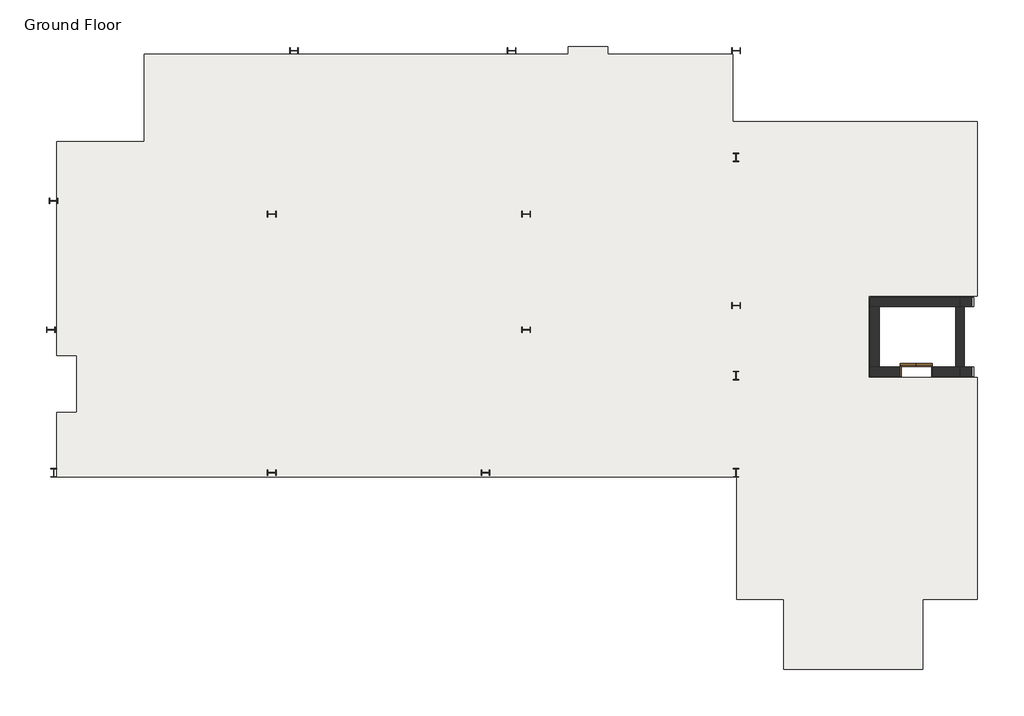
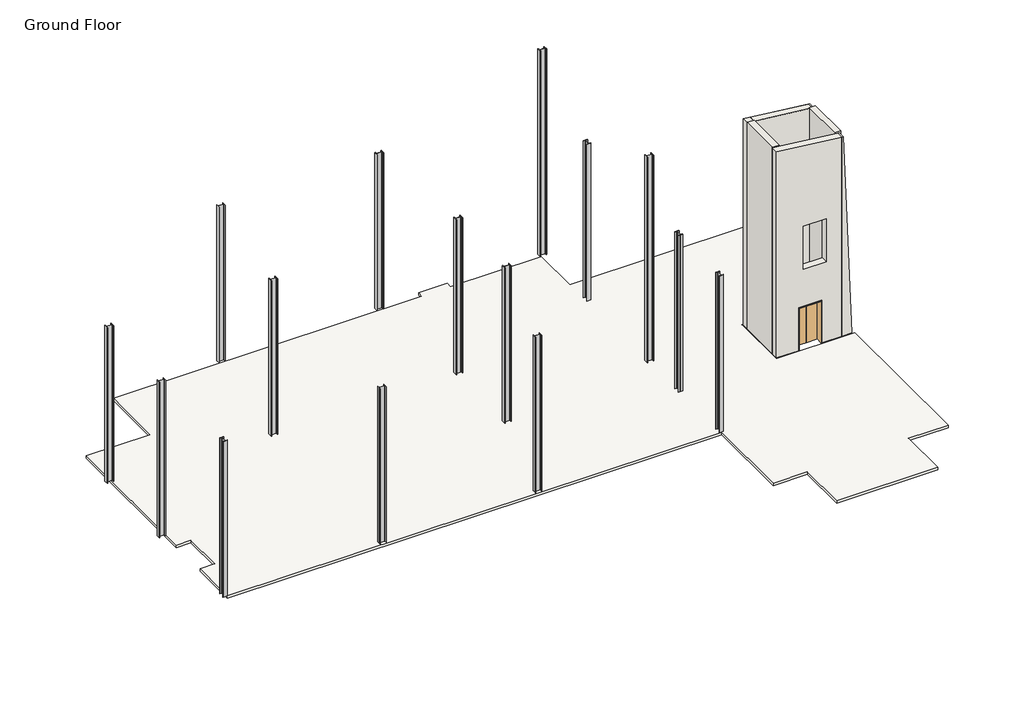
# One storey: 15 columns, 7 walls, 1 door, 1 slab.
"""IFC4 building model written with IfcOpenShell, lengths in millimetres."""

from ifc_helpers import new_model, si_unit, point, frame, frame_2d, origin, place, context, project, spatial, polyline, circle_curve, trimmed, segment, composite_curve, outline, extrude, faceted_brep, transform, mapped, element, save
from components import w_wide_flange_column_w12x40_bfea6e2c, door_aaeb5b8c

model = new_model("IFC4")

# Units and contexts
model_context = context("Model", 3, world=origin())
ifc_project = project(units=[si_unit("LENGTHUNIT", "METRE", prefix="MILLI")], contexts=[model_context])

# Site, building, storey
site = spatial("IfcSite", under=ifc_project)
building = spatial("IfcBuilding", under=site)
storey = spatial("IfcBuildingStorey", under=building, Name="Ground Floor", Elevation=30480.0)

# Columns
placement = place(None, origin())
element("IfcColumn", 1, ObjectType="W-Wide Flange-Column : W12X40", at=placement, inside=storey, context=model_context, shape_type="SweptSolid", body=[
    extrude(outline(composite_curve([segment(polyline([(13669.3791487, -6791.0746401), (13669.3791487, -6804.1715151), (13593.3279768, -6804.1715151)]), True, "CONTINUOUS"), segment(trimmed(circle_curve(frame_2d((13593.3279768, -6825.9996401)), 21.828125), [point((13593.3279768, -6804.1715151))], [point((13571.4998518, -6825.9996401))], True, "CARTESIAN"), True, "CONTINUOUS"), segment(polyline([(13571.4998518, -6825.9996401), (13571.4998518, -7059.4613589)]), True, "CONTINUOUS"), segment(trimmed(circle_curve(frame_2d((13593.3279768, -7059.4613589)), 21.828125), [point((13571.4998518, -7059.4613589))], [point((13593.3279768, -7081.2894839))], True, "CARTESIAN"), True, "CONTINUOUS"), segment(polyline([(13593.3279768, -7081.2894839), (13669.3791487, -7081.2894839), (13669.3791487, -7094.3863589), (13466.0799299, -7094.3863589), (13466.0799299, -7081.2894839), (13542.1311018, -7081.2894839)]), True, "CONTINUOUS"), segment(trimmed(circle_curve(frame_2d((13542.1311018, -7059.4613589)), 21.828125), [point((13542.1311018, -7081.2894839))], [point((13563.9592268, -7059.4613589))], True, "CARTESIAN"), True, "CONTINUOUS"), segment(polyline([(13563.9592268, -7059.4613589), (13563.9592268, -6825.9996401)]), True, "CONTINUOUS"), segment(trimmed(circle_curve(frame_2d((13542.1311018, -6825.9996401)), 21.828125), [point((13563.9592268, -6825.9996401))], [point((13542.1311018, -6804.1715151))], True, "CARTESIAN"), True, "CONTINUOUS"), segment(polyline([(13542.1311018, -6804.1715151), (13466.0799299, -6804.1715151), (13466.0799299, -6791.0746401), (13669.3791487, -6791.0746401)]), True, "CONTINUOUS")], self_intersect=False)), frame((0.0, 0.0, 30480.0), z_axis=(0.0, 0.0, 1.0), x_axis=(1.0, 0.0, 0.0)), (0.0, 0.0, 1.0), 7988.3),
])
element("IfcColumn", 2, ObjectType="W-Wide Flange-Column : W12X40", at=placement, inside=storey, context=model_context, shape_type="SweptSolid", body=[
    extrude(outline(composite_curve([segment(polyline([(-10575.3444063, -1833.0779639), (-10562.2475313, -1833.0779639), (-10562.2475313, -1909.1291357)]), True, "CONTINUOUS"), segment(trimmed(circle_curve(frame_2d((-10540.4194063, -1909.1291357)), 21.828125), [point((-10562.2475313, -1909.1291357))], [point((-10540.4194063, -1930.9572607))], True, "CARTESIAN"), True, "CONTINUOUS"), segment(polyline([(-10540.4194063, -1930.9572607), (-10306.9576875, -1930.9572607)]), True, "CONTINUOUS"), segment(trimmed(circle_curve(frame_2d((-10306.9576875, -1909.1291357)), 21.828125), [point((-10306.9576875, -1930.9572607))], [point((-10285.1295625, -1909.1291357))], True, "CARTESIAN"), True, "CONTINUOUS"), segment(polyline([(-10285.1295625, -1909.1291357), (-10285.1295625, -1833.0779639), (-10272.0326875, -1833.0779639), (-10272.0326875, -2036.3771826), (-10285.1295625, -2036.3771826), (-10285.1295625, -1960.3260107)]), True, "CONTINUOUS"), segment(trimmed(circle_curve(frame_2d((-10306.9576875, -1960.3260107)), 21.828125), [point((-10285.1295625, -1960.3260107))], [point((-10306.9576875, -1938.4978857))], True, "CARTESIAN"), True, "CONTINUOUS"), segment(polyline([(-10306.9576875, -1938.4978857), (-10540.4194063, -1938.4978857)]), True, "CONTINUOUS"), segment(trimmed(circle_curve(frame_2d((-10540.4194063, -1960.3260107)), 21.828125), [point((-10540.4194063, -1938.4978857))], [point((-10562.2475313, -1960.3260107))], True, "CARTESIAN"), True, "CONTINUOUS"), segment(polyline([(-10562.2475313, -1960.3260107), (-10562.2475313, -2036.3771826), (-10575.3444063, -2036.3771826), (-10575.3444063, -1833.0779639)]), True, "CONTINUOUS")], self_intersect=False)), frame((0.0, 0.0, 30480.0), z_axis=(0.0, 0.0, 1.0), x_axis=(1.0, 0.0, 0.0)), (0.0, 0.0, 1.0), 7924.8),
])
element("IfcColumn", 3, ObjectType="W-Wide Flange-Column : W12X40", at=placement, inside=storey, context=model_context, shape_type="SweptSolid", body=[
    extrude(outline(composite_curve([segment(polyline([(13416.0736799, 7944.8941099), (13429.1705549, 7944.8941099), (13429.1705549, 7868.842938)]), True, "CONTINUOUS"), segment(trimmed(circle_curve(frame_2d((13450.9986799, 7868.842938)), 21.828125), [point((13429.1705549, 7868.842938))], [point((13450.9986799, 7847.014813))], True, "CARTESIAN"), True, "CONTINUOUS"), segment(polyline([(13450.9986799, 7847.014813), (13684.4603987, 7847.014813)]), True, "CONTINUOUS"), segment(trimmed(circle_curve(frame_2d((13684.4603987, 7868.842938)), 21.828125), [point((13684.4603987, 7847.014813))], [point((13706.2885237, 7868.842938))], True, "CARTESIAN"), True, "CONTINUOUS"), segment(polyline([(13706.2885237, 7868.842938), (13706.2885237, 7944.8941099), (13719.3853987, 7944.8941099), (13719.3853987, 7741.5948911), (13706.2885237, 7741.5948911), (13706.2885237, 7817.646063)]), True, "CONTINUOUS"), segment(trimmed(circle_curve(frame_2d((13684.4603987, 7817.646063)), 21.828125), [point((13706.2885237, 7817.646063))], [point((13684.4603987, 7839.474188))], True, "CARTESIAN"), True, "CONTINUOUS"), segment(polyline([(13684.4603987, 7839.474188), (13450.9986799, 7839.474188)]), True, "CONTINUOUS"), segment(trimmed(circle_curve(frame_2d((13450.9986799, 7817.646063)), 21.828125), [point((13450.9986799, 7839.474188))], [point((13429.1705549, 7817.646063))], True, "CARTESIAN"), True, "CONTINUOUS"), segment(polyline([(13429.1705549, 7817.646063), (13429.1705549, 7741.5948911), (13416.0736799, 7741.5948911), (13416.0736799, 7944.8941099)]), True, "CONTINUOUS")], self_intersect=False)), frame((0.0, 0.0, 30480.0), z_axis=(0.0, 0.0, 1.0), x_axis=(1.0, 0.0, 0.0)), (0.0, 0.0, 1.0), 10466.7908493),
])
element("IfcColumn", 4, ObjectType="W-Wide Flange-Column : W12X40", at=placement, inside=storey, context=model_context, shape_type="SweptSolid", body=[
    extrude(outline(composite_curve([segment(polyline([(13466.0799299, 3954.6136411), (13466.0799299, 3967.7105161), (13542.1311018, 3967.7105161)]), True, "CONTINUOUS"), segment(trimmed(circle_curve(frame_2d((13542.1311018, 3989.5386411)), 21.828125), [point((13542.1311018, 3967.7105161))], [point((13563.9592268, 3989.5386411))], True, "CARTESIAN"), True, "CONTINUOUS"), segment(polyline([(13563.9592268, 3989.5386411), (13563.9592268, 4223.0003599)]), True, "CONTINUOUS"), segment(trimmed(circle_curve(frame_2d((13542.1311018, 4223.0003599)), 21.828125), [point((13563.9592268, 4223.0003599))], [point((13542.1311018, 4244.8284849))], True, "CARTESIAN"), True, "CONTINUOUS"), segment(polyline([(13542.1311018, 4244.8284849), (13466.0799299, 4244.8284849), (13466.0799299, 4257.9253599), (13669.3791487, 4257.9253599), (13669.3791487, 4244.8284849), (13593.3279768, 4244.8284849)]), True, "CONTINUOUS"), segment(trimmed(circle_curve(frame_2d((13593.3279768, 4223.0003599)), 21.828125), [point((13593.3279768, 4244.8284849))], [point((13571.4998518, 4223.0003599))], True, "CARTESIAN"), True, "CONTINUOUS"), segment(polyline([(13571.4998518, 4223.0003599), (13571.4998518, 3989.5386411)]), True, "CONTINUOUS"), segment(trimmed(circle_curve(frame_2d((13593.3279768, 3989.5386411)), 21.828125), [point((13571.4998518, 3989.5386411))], [point((13593.3279768, 3967.7105161))], True, "CARTESIAN"), True, "CONTINUOUS"), segment(polyline([(13593.3279768, 3967.7105161), (13669.3791487, 3967.7105161), (13669.3791487, 3954.6136411), (13466.0799299, 3954.6136411)]), True, "CONTINUOUS")], self_intersect=False)), frame((0.0, 0.0, 30480.0), z_axis=(0.0, 0.0, 1.0), x_axis=(1.0, 0.0, 0.0)), (0.0, 0.0, 1.0), 7988.3),
])
element("IfcColumn", 5, ObjectType="W-Wide Flange-Column : W12X40", at=placement, inside=storey, context=model_context, shape_type="SweptSolid", body=[
    extrude(outline(composite_curve([segment(polyline([(13719.3853987, -1186.5051089), (13706.2885237, -1186.5051089), (13706.2885237, -1110.453937)]), True, "CONTINUOUS"), segment(trimmed(circle_curve(frame_2d((13684.4603987, -1110.453937)), 21.828125), [point((13706.2885237, -1110.453937))], [point((13684.4603987, -1088.625812))], True, "CARTESIAN"), True, "CONTINUOUS"), segment(polyline([(13684.4603987, -1088.625812), (13450.9986799, -1088.625812)]), True, "CONTINUOUS"), segment(trimmed(circle_curve(frame_2d((13450.9986799, -1110.453937)), 21.828125), [point((13450.9986799, -1088.625812))], [point((13429.1705549, -1110.453937))], True, "CARTESIAN"), True, "CONTINUOUS"), segment(polyline([(13429.1705549, -1110.453937), (13429.1705549, -1186.5051089), (13416.0736799, -1186.5051089), (13416.0736799, -983.2058901), (13429.1705549, -983.2058901), (13429.1705549, -1059.257062)]), True, "CONTINUOUS"), segment(trimmed(circle_curve(frame_2d((13450.9986799, -1059.257062)), 21.828125), [point((13429.1705549, -1059.257062))], [point((13450.9986799, -1081.085187))], True, "CARTESIAN"), True, "CONTINUOUS"), segment(polyline([(13450.9986799, -1081.085187), (13684.4603987, -1081.085187)]), True, "CONTINUOUS"), segment(trimmed(circle_curve(frame_2d((13684.4603987, -1059.257062)), 21.828125), [point((13684.4603987, -1081.085187))], [point((13706.2885237, -1059.257062))], True, "CARTESIAN"), True, "CONTINUOUS"), segment(polyline([(13706.2885237, -1059.257062), (13706.2885237, -983.2058901), (13719.3853987, -983.2058901), (13719.3853987, -1186.5051089)]), True, "CONTINUOUS")], self_intersect=False)), frame((0.0, 0.0, 30480.0), z_axis=(0.0, 0.0, 1.0), x_axis=(1.0, 0.0, 0.0)), (0.0, 0.0, 1.0), 10466.8036839),
])
element("IfcColumn", 6, ObjectType="W-Wide Flange-Column : W12X40", at=placement, inside=storey, context=model_context, shape_type="SweptSolid", body=[
    extrude(outline(composite_curve([segment(polyline([(13669.3791487, -3387.4746401), (13669.3791487, -3400.5715151), (13593.3279768, -3400.5715151)]), True, "CONTINUOUS"), segment(trimmed(circle_curve(frame_2d((13593.3279768, -3422.3996401)), 21.828125), [point((13593.3279768, -3400.5715151))], [point((13571.4998518, -3422.3996401))], True, "CARTESIAN"), True, "CONTINUOUS"), segment(polyline([(13571.4998518, -3422.3996401), (13571.4998518, -3655.8613589)]), True, "CONTINUOUS"), segment(trimmed(circle_curve(frame_2d((13593.3279768, -3655.8613589)), 21.828125), [point((13571.4998518, -3655.8613589))], [point((13593.3279768, -3677.6894839))], True, "CARTESIAN"), True, "CONTINUOUS"), segment(polyline([(13593.3279768, -3677.6894839), (13669.3791487, -3677.6894839), (13669.3791487, -3690.7863589), (13466.0799299, -3690.7863589), (13466.0799299, -3677.6894839), (13542.1311018, -3677.6894839)]), True, "CONTINUOUS"), segment(trimmed(circle_curve(frame_2d((13542.1311018, -3655.8613589)), 21.828125), [point((13542.1311018, -3677.6894839))], [point((13563.9592268, -3655.8613589))], True, "CARTESIAN"), True, "CONTINUOUS"), segment(polyline([(13563.9592268, -3655.8613589), (13563.9592268, -3422.3996401)]), True, "CONTINUOUS"), segment(trimmed(circle_curve(frame_2d((13542.1311018, -3422.3996401)), 21.828125), [point((13563.9592268, -3422.3996401))], [point((13542.1311018, -3400.5715151))], True, "CARTESIAN"), True, "CONTINUOUS"), segment(polyline([(13542.1311018, -3400.5715151), (13466.0799299, -3400.5715151), (13466.0799299, -3387.4746401), (13669.3791487, -3387.4746401)]), True, "CONTINUOUS")], self_intersect=False)), frame((0.0, 0.0, 30480.0), z_axis=(0.0, 0.0, 1.0), x_axis=(1.0, 0.0, 0.0)), (0.0, 0.0, 1.0), 7988.3),
])
w_wide_flange_column_w12x40_shape = w_wide_flange_column_w12x40_bfea6e2c(model_context)
element("IfcColumn", 7, ObjectType="W-Wide Flange-Column : W12X40", at=placement, inside=storey, context=model_context, shape_type="MappedRepresentation", body=[
    mapped(w_wide_flange_column_w12x40_shape, transform((-10327.3204607, -6942.7304995, 0.0), x_axis=(1.0, 0.0, 0.0), y_axis=(0.0, 1.0, 0.0), z_axis=(0.0, 0.0, 1.0))),
])
element("IfcColumn", 8, ObjectType="W-Wide Flange-Column : W12X40", at=placement, inside=storey, context=model_context, shape_type="MappedRepresentation", body=[
    mapped(w_wide_flange_column_w12x40_shape, transform((-2689.8579607, -6942.7304995, 0.0), x_axis=(0.0, 1.0000000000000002, 0.0), y_axis=(-1.0000000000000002, 0.0, 0.0), z_axis=(0.0, 0.0, 1.0))),
])
element("IfcColumn", 9, ObjectType="W-Wide Flange-Column : W12X40", at=placement, inside=storey, context=model_context, shape_type="MappedRepresentation", body=[
    mapped(w_wide_flange_column_w12x40_shape, transform((4795.2045393, -6942.7304995, 0.0), x_axis=(0.0, 1.0000000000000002, 0.0), y_axis=(-1.0000000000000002, 0.0, 0.0), z_axis=(0.0, 0.0, 1.0))),
])
element("IfcColumn", 10, ObjectType="W-Wide Flange-Column : W12X40", at=placement, inside=storey, context=model_context, shape_type="MappedRepresentation", body=[
    mapped(w_wide_flange_column_w12x40_shape, transform((6216.0170393, -1935.7554995, 0.0), x_axis=(0.0, -1.0000000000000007, 0.0), y_axis=(1.0000000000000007, 0.0, 0.0), z_axis=(0.0, 0.0, 1.0))),
])
element("IfcColumn", 11, ObjectType="W-Wide Flange-Column : W12X40", at=placement, inside=storey, context=model_context, shape_type="MappedRepresentation", body=[
    mapped(w_wide_flange_column_w12x40_shape, transform((-2689.8579607, 2125.0695005, 0.0), x_axis=(0.0, 1.0, 0.0), y_axis=(-1.0, 0.0, 0.0), z_axis=(0.0, 0.0, 1.0))),
])
element("IfcColumn", 12, ObjectType="W-Wide Flange-Column : W12X40", at=placement, inside=storey, context=model_context, shape_type="MappedRepresentation", body=[
    mapped(w_wide_flange_column_w12x40_shape, transform((6216.0170393, 2125.0695005, 0.0), x_axis=(0.0, 1.0000000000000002, 0.0), y_axis=(-1.0000000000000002, 0.0, 0.0), z_axis=(0.0, 0.0, 1.0))),
])
element("IfcColumn", 13, ObjectType="W-Wide Flange-Column : W12X40", at=placement, inside=storey, context=model_context, shape_type="MappedRepresentation", body=[
    mapped(w_wide_flange_column_w12x40_shape, transform((-1910.3954607, 7843.2445005, 0.0), x_axis=(0.0, 1.0000000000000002, 0.0), y_axis=(-1.0000000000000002, 0.0, 0.0), z_axis=(0.0, 0.0, 1.0))),
])
element("IfcColumn", 14, ObjectType="W-Wide Flange-Column : W12X40", at=placement, inside=storey, context=model_context, shape_type="MappedRepresentation", body=[
    mapped(w_wide_flange_column_w12x40_shape, transform((5709.6045393, 7843.2445005, 0.0), x_axis=(0.0, 1.0000000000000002, 0.0), y_axis=(-1.0000000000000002, 0.0, 0.0), z_axis=(0.0, 0.0, 1.0))),
])
element("IfcColumn", 15, ObjectType="W-Wide Flange-Column : W12X40", at=placement, inside=storey, context=model_context, shape_type="MappedRepresentation", body=[
    mapped(w_wide_flange_column_w12x40_shape, transform((-10327.3204607, 2582.2695005, 0.0), x_axis=(0.0, 1.0000000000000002, 0.0), y_axis=(-1.0000000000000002, 0.0, 0.0), z_axis=(0.0, 0.0, 1.0))),
])

# Door
door_shape = door_aaeb5b8c(model_context)
element("IfcDoor", 16, ObjectType="Elevator_Door_CabCenter-Genericrfa : 42\" Opening", at=placement, inside=storey, context=model_context, shape_type="MappedRepresentation", body=[
    mapped(door_shape, transform((19883.5486799, -3399.4304995, 30480.0), x_axis=(1.0, 0.0, 0.0), y_axis=(0.0, 1.0, 0.0), z_axis=(0.0, 0.0, 1.0))),
])

# Slab
element("IfcSlab", 17, ObjectType="5\" Concrete", at=placement, inside=storey, context=model_context, shape_type="SweptSolid", body=[
    extrude(outline(polyline([(7700.3295393, 7725.7695005), (7700.3295393, 7992.4695005), (9071.9295393, 7992.4695005), (9071.9295393, 7725.7695005), (13450.2545393, 7725.7695005), (13450.2545393, 5350.8695005), (22019.578935, 5350.8695005), (22019.578935, -757.8304995), (18219.8486799, -757.8304995), (18219.8486799, -3602.6304995), (22019.578935, -3602.6304995), (22019.578935, -11381.3804995), (20105.0545393, -11381.3804995), (20105.0545393, -13826.1304995), (15240.9545393, -13826.1304995), (15240.9545393, -11381.3804995), (13583.6045393, -11381.3804995), (13583.6045393, -7095.1304995), (-10225.7204607, -7095.1304995), (-10225.7204607, -4821.8304995), (-9524.0454607, -4821.8304995), (-9524.0454607, -2837.4554995), (-10225.7204607, -2837.4554995), (-10225.7204607, 4661.8945005), (-7149.1454607, 4661.8945005), (-7149.1454607, 7725.7695005), (7700.3295393, 7725.7695005)])), frame((0.0, 0.0, 30353.0), z_axis=(0.0, 0.0, 1.0), x_axis=(1.0, 0.0, 0.0)), (0.0, 0.0, 1.0), 127.0),
])

# Walls
element("IfcWall", 18, ObjectType="Elevator Wall - 12\" CMU w furring & Wood Planks", at=placement, inside=storey, context=model_context, shape_type="Brep", body=[
    faceted_brep([(18588.1486799, -3234.3304995, 30480.0), (18588.1486799, -1126.1304995, 30480.0), (18588.1486799, -1126.1304995, 40995.6), (18588.1486799, -3234.3304995, 40995.6), (18257.9486799, -3234.3304995, 30480.0), (18257.9486799, -3234.3304995, 40981.1907931), (18257.9486799, -3234.3304995, 40995.6), (18257.9486799, -1126.1304995, 40995.6), (18257.9486799, -1126.1304995, 40981.1907931), (18257.9486799, -1126.1304995, 30480.0)], [[[0, 1, 2, 3]], [[4, 5, 6, 7, 8, 9]], [[1, 0, 4, 9]], [[3, 2, 7, 6]], [[2, 1, 9, 8, 7]], [[0, 3, 6, 5, 4]]]),
])
element("IfcWall", 19, ObjectType="Elevator Wall - 12\" CMU w furring & Wood Planks", at=placement, inside=storey, context=model_context, shape_type="Brep", body=[
    faceted_brep([(18257.9486799, -1126.1304995, 40981.1907931), (18257.9486799, -1126.1304995, 30480.0), (18588.1486799, -1126.1304995, 30480.0), (21255.1486799, -1126.1304995, 30480.0), (21402.7861799, -1126.1304995, 30480.0), (21402.7861799, -1126.1304995, 40629.44646), (18257.9486799, -795.9304995, 30480.0), (18257.9486799, -795.9304995, 40981.1907931), (21402.7861799, -795.9304995, 40629.44646), (21402.7861799, -795.9304995, 30480.0)], [[[0, 1, 2, 3, 4, 5]], [[6, 7, 8, 9]], [[0, 7, 6, 1]], [[4, 3, 2, 1, 6, 9]], [[5, 4, 9, 8]], [[0, 5, 8, 7]]]),
])
element("IfcWall", 20, ObjectType="Elevator Wall - 12\" CMU w furring & Wood Planks", at=placement, inside=storey, context=model_context, shape_type="Brep", body=[
    faceted_brep([(21889.8617513, -3234.3304995, 30480.0), (21550.4236799, -3234.3304995, 30480.0), (21402.7861799, -3234.3304995, 30480.0), (21402.7861799, -3234.3304995, 40629.44646), (21467.4045193, -3234.3304995, 40622.2190167), (21889.8617513, -3564.5304995, 30480.0), (21467.4045193, -3564.5304995, 40622.2190167), (21402.7861799, -3564.5304995, 40629.44646), (21402.7861799, -3564.5304995, 30480.0)], [[[0, 1, 2, 3, 4]], [[5, 6, 7, 8]], [[2, 1, 0, 5, 8]], [[3, 2, 8, 7]], [[4, 3, 7, 6]], [[0, 4, 6, 5]]]),
])
element("IfcWall", 21, ObjectType="Elevator Wall - 12\" CMU w furring & Wood Planks", at=placement, inside=storey, context=model_context, shape_type="Brep", body=[
    faceted_brep([(21402.7861799, -1126.1304995, 30480.0), (21550.4236799, -1126.1304995, 30480.0), (21889.8617513, -1126.1304995, 30480.0), (21467.4045193, -1126.1304995, 40622.2190167), (21402.7861799, -1126.1304995, 40629.44646), (21402.7861799, -795.9304995, 30480.0), (21402.7861799, -795.9304995, 40629.44646), (21467.4045193, -795.9304995, 40622.2190167), (21889.8617513, -795.9304995, 30480.0)], [[[0, 1, 2, 3, 4]], [[5, 6, 7, 8]], [[2, 1, 0, 5, 8]], [[3, 2, 8, 7]], [[4, 3, 7, 6]], [[0, 4, 6, 5]]]),
])
element("IfcWall", 22, ObjectType="Elevator Wall - 12\" CMU w furring & Wood Planks", at=placement, inside=storey, context=model_context, shape_type="Brep", body=[
    faceted_brep([(18257.9486799, -3234.3304995, 40981.1907931), (21402.7861799, -3234.3304995, 40629.44646), (21402.7861799, -3234.3304995, 30480.0), (21255.1486799, -3234.3304995, 30480.0), (20442.3486799, -3234.3304995, 30480.0), (20442.3486799, -3234.3304995, 32664.4), (19324.7486799, -3234.3304995, 32664.4), (19324.7486799, -3234.3304995, 30480.0), (18588.1486799, -3234.3304995, 30480.0), (18257.9486799, -3234.3304995, 30480.0), (20665.8141096, -3234.3304995, 34544.0), (20665.8141096, -3234.3304995, 36728.4), (19548.2141096, -3234.3304995, 36728.4), (19548.2141096, -3234.3304995, 34544.0), (21402.7861799, -3564.5304995, 40629.44646), (18257.9486799, -3564.5304995, 40981.1907931), (18257.9486799, -3564.5304995, 30480.0), (19324.7486799, -3564.5304995, 30480.0), (19324.7486799, -3564.5304995, 32664.4), (20442.3486799, -3564.5304995, 32664.4), (20442.3486799, -3564.5304995, 30480.0), (21402.7861799, -3564.5304995, 30480.0), (20665.8141096, -3564.5304995, 34544.0), (19548.2141096, -3564.5304995, 34544.0), (19548.2141096, -3564.5304995, 36728.4), (20665.8141096, -3564.5304995, 36728.4)], [[[0, 1, 2, 3, 4, 5, 6, 7, 8, 9], [10, 11, 12, 13]], [[14, 15, 16, 17, 18, 19, 20, 21], [22, 23, 24, 25]], [[0, 9, 16, 15]], [[10, 13, 23, 22]], [[13, 12, 24, 23]], [[12, 11, 25, 24]], [[11, 10, 22, 25]], [[19, 5, 4, 20]], [[5, 19, 18, 6]], [[6, 18, 17, 7]], [[16, 9, 8, 7, 17]], [[2, 21, 20, 4, 3]], [[1, 0, 15, 14]], [[2, 1, 14, 21]]]),
])
element("IfcWall", 23, ObjectType="Elevator Wall - 12\" CMU w furring & Wood Planks", at=placement, inside=storey, context=model_context, shape_type="SweptSolid", body=[
    extrude(outline(polyline([(40944.2585259, 18588.1486799), (30480.0, 18588.1486799), (30480.0, 21889.8617513), (40622.2190167, 21467.4045193), (40944.2585259, 18588.1486799)])), frame((0.0, -1126.1304995, 0.0), z_axis=(0.0, 1.0, 0.0), x_axis=(0.0, 0.0, 1.0)), (0.0, 0.0, 1.0), 330.2),
])
element("IfcWall", 24, ObjectType="Elevator Wall - 12\" CMU", at=placement, inside=storey, context=model_context, shape_type="Brep", body=[
    faceted_brep([(21550.4236799, -3234.3304995, 40690.8), (21550.4236799, -3234.3304995, 30480.0), (21550.4236799, -1126.1304995, 30480.0), (21550.4236799, -1126.1304995, 40690.8), (21255.1486799, -3234.3304995, 30480.0), (21255.1486799, -3234.3304995, 40690.8), (21255.1486799, -1126.1304995, 40690.8), (21255.1486799, -1126.1304995, 30480.0), (21402.7861799, -3234.3304995, 30480.0), (21402.7861799, -1126.1304995, 30480.0)], [[[0, 1, 2, 3]], [[4, 5, 6, 7]], [[2, 1, 8, 4, 7, 9]], [[0, 3, 6, 5]], [[2, 9, 7, 6, 3]], [[0, 5, 4, 8, 1]]]),
])

save(model, "model.ifc")
